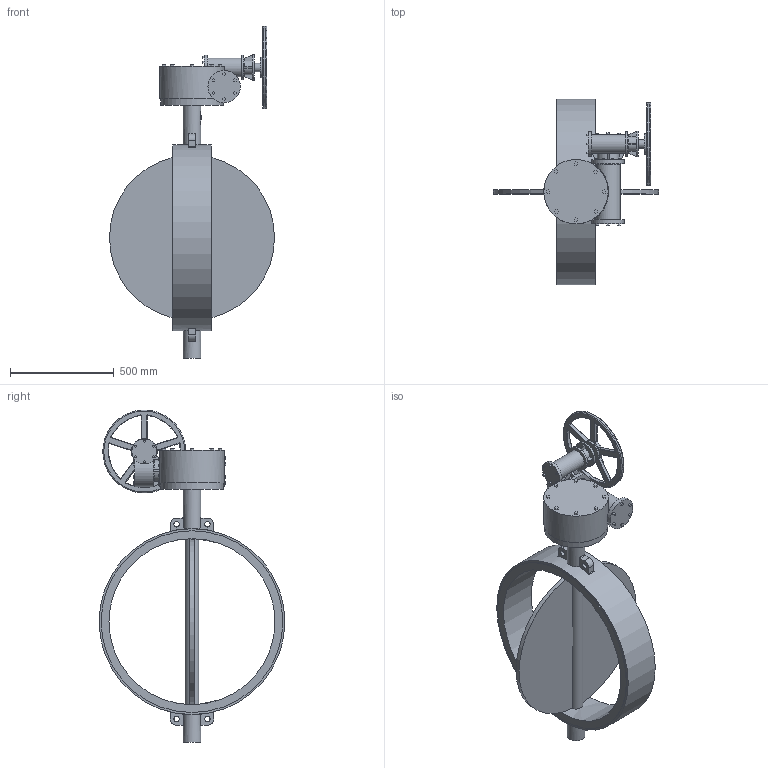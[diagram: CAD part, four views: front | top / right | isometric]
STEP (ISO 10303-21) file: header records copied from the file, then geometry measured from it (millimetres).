
FILE_DESCRIPTION(('STEP AP203'), '1');
FILE_NAME('青蜮铕 017W.YS_DN800_PN10_疱潴牝铕', '', ('UNSPECIFIED'), ('UNSPECIFIED'), 'ASCON STEP Converter 1.6', 'ASCON Math Kernel', '');
FILE_SCHEMA(('CONFIG_CONTROL_DESIGN'));
Length unit declared in the file: millimetre
Bounding box: 795.4 x 896 x 1600 mm (x, y, z)
Volume: 59550996.5 mm3; surface area: 3281733.7 mm2
Topology: 1 solids, 1 shells, 623 faces, 1575 edges, 1006 vertices
Faces by surface type: plane 399, cylinder 117, torus 81, cone 16, bspline 10
Full cylindrical faces by diameter (mm): 13.835 x8, 18 x8, 26.211 x4, 40 x1, 65 x1, 85 x2, 90 x1, 100 x1, 116 x1, 120 x2, 125 x1, 156 x3, 300 x1, 310 x1, 400 x1, 800 x1, 876 x2, 896 x1
Entity records: 26067 total; most frequent: CARTESIAN_POINT 6171, DIRECTION 3078, ORIENTED_EDGE 3006, EDGE_CURVE 1503, AXIS2_PLACEMENT_3D 1033, LINE 1012, VECTOR 1012, VERTEX_POINT 998
